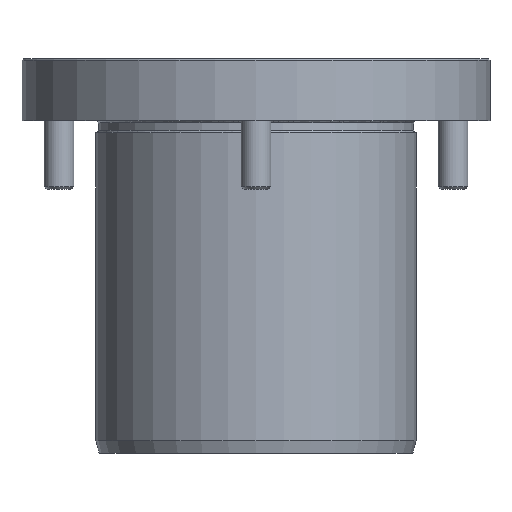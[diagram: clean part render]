
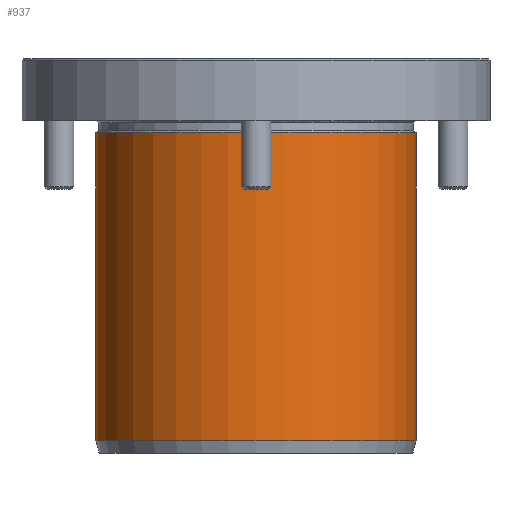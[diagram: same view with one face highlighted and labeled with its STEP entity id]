
A CAD part, left-side view. The second image highlights one B-rep face of the part: STEP entity #937.
In plain terms, the highlighted cylindrical face has radius 65 mm (diameter 130 mm), a partial arc.
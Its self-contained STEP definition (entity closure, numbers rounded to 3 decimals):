
#150=VERTEX_POINT(' ',#151);
#151=CARTESIAN_POINT('',(0.,-65.,-5.));
#152=VERTEX_POINT(' ',#153);
#153=CARTESIAN_POINT('',(0.,65.,-5.));
#154=VERTEX_POINT(' ',#155);
#155=CARTESIAN_POINT('',(0.,-65.,-130.));
#156=VERTEX_POINT(' ',#157);
#157=CARTESIAN_POINT('',(0.,65.,-130.));
#374=CIRCLE('',#375,65.);
#375=AXIS2_PLACEMENT_3D('',#376,#377,#378);
#376=CARTESIAN_POINT('',(0.,0.,-5.));
#377=DIRECTION('',(0.,0.,-1.));
#378=DIRECTION('',(1.,0.,0.));
#379=EDGE_CURVE(' ',#150,#152,#374,.T.);
#380=LINE('',#381,#382);
#381=CARTESIAN_POINT('',(0.,-65.,-5.));
#382=VECTOR('',#383,1.);
#383=DIRECTION('',(0.,0.,-1.));
#384=EDGE_CURVE(' ',#150,#154,#380,.T.);
#391=LINE('',#392,#393);
#392=CARTESIAN_POINT('',(0.,65.,-5.));
#393=VECTOR('',#394,1.);
#394=DIRECTION('',(0.,0.,-1.));
#395=EDGE_CURVE(' ',#152,#156,#391,.T.);
#396=CIRCLE('',#397,65.);
#397=AXIS2_PLACEMENT_3D('',#398,#399,#400);
#398=CARTESIAN_POINT('',(0.,0.,-130.));
#399=DIRECTION('',(0.,0.,-1.));
#400=DIRECTION('',(1.,0.,0.));
#401=EDGE_CURVE(' ',#154,#156,#396,.T.);
#926=ORIENTED_EDGE('',*,*,#384,.F.);
#927=ORIENTED_EDGE('',*,*,#379,.T.);
#928=ORIENTED_EDGE('',*,*,#395,.T.);
#929=ORIENTED_EDGE('',*,*,#401,.F.);
#930=EDGE_LOOP('',(#926,#927,#928,#929));
#931=FACE_OUTER_BOUND('',#930,.T.);
#932=CYLINDRICAL_SURFACE('',#933,65.);
#933=AXIS2_PLACEMENT_3D('',#934,#935,#936);
#934=CARTESIAN_POINT('',(0.,0.,-5.));
#935=DIRECTION('',(0.,0.,-1.));
#936=DIRECTION('',(1.,0.,0.));
#937=ADVANCED_FACE('',(#931),#932,.T.);
